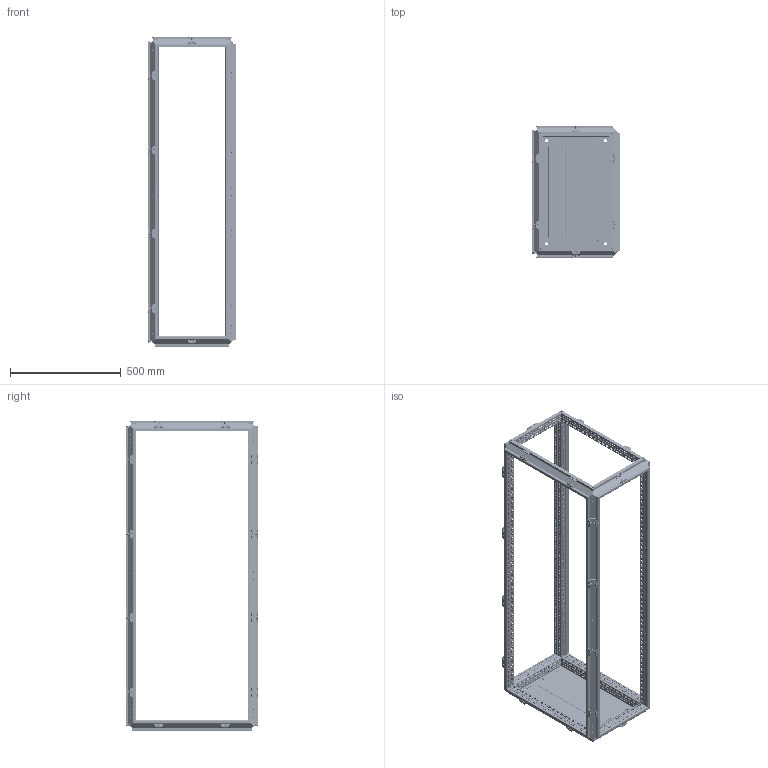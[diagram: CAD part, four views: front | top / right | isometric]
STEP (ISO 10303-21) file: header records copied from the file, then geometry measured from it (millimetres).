
FILE_DESCRIPTION(('STEP AP203'), '1');
FILE_NAME('3000 忺謤僔 捘', '', ('UNSPECIFIED'), ('UNSPECIFIED'), 'C3D Converter', 'C3D Toolkit', '');
FILE_SCHEMA(('CONFIG_CONTROL_DESIGN'));
Length unit declared in the file: millimetre
Products named in the file (12): 3000.140.60.40 СБ; 3000; 3007.175; 3007.75; 3009.04; 3009.04.01; 3009.04.2; 3009.04.01.2
Assembly tree (116 placements, depth 3):
  3000.140.60.40 СБ
    3000
    (unnamed)  x80
    3007.175
    (unnamed)  x6
    3007.75
    3009.04  x6
      3009.04.01
      (unnamed)
      (unnamed)
    3009.04.2  x12
      3009.04.01.2
      (unnamed)
      (unnamed)
Bounding box: 397 x 597 x 1398.5 mm (x, y, z)
Volume: 2594459.1 mm3; surface area: 3429730.2 mm2
Topology: 189 solids, 189 shells, 12871 faces, 35835 edges, 23608 vertices
Faces by surface type: plane 8855, cylinder 3252, cone 508, torus 220, bspline 36
Full cylindrical faces by diameter (mm): 4.134 x110, 4.5 x1324, 4.8 x6, 5 x116, 5.8 x30, 6.8 x160, 7 x80, 7.5 x36, 8 x80, 9.2 x36, 10.106 x8, 14 x4
Entity records: 285826 total; most frequent: CARTESIAN_POINT 53439, ORIENTED_EDGE 45782, DIRECTION 43497, EDGE_CURVE 22891, LINE 18607, VECTOR 18607, VERTEX_POINT 16046, EDGE_LOOP 15305
